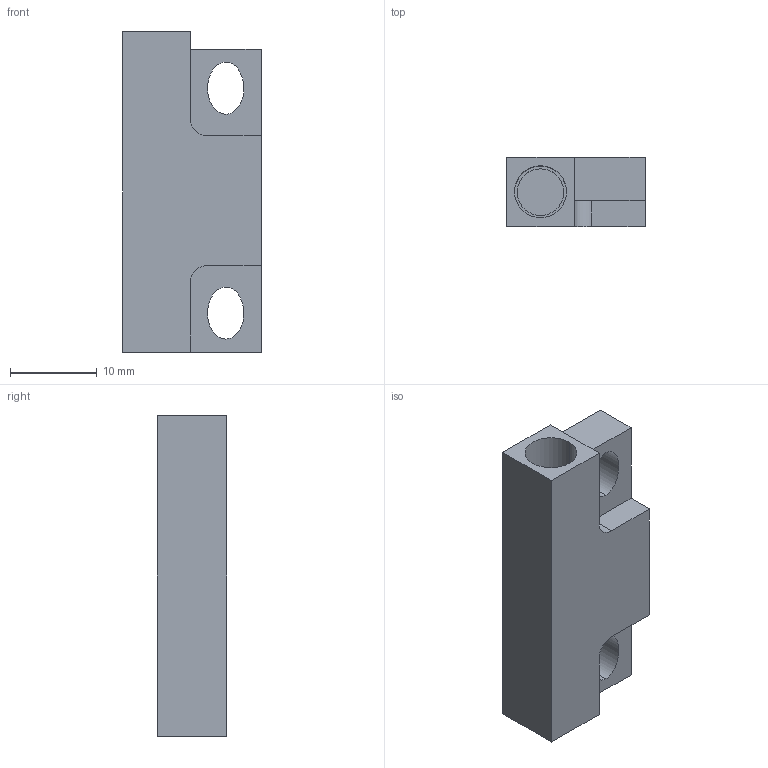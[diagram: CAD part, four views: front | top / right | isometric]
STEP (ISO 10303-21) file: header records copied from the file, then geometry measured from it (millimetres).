
FILE_DESCRIPTION (( 'STEP AP214' ), '1' );
FILE_NAME ('M306.STEP', '2021-12-30T09:24:48', ( '' ), ( '' ), 'SwSTEP 2.0', 'SolidWorks 2021', '' );
FILE_SCHEMA (( 'AUTOMOTIVE_DESIGN' ));
Length unit declared in the file: millimetre
Products named in the file (2): M306; Corpo_0-8
Assembly tree (1 placements, depth 2):
  M306
    Corpo_0-8
Bounding box: 16 x 8 x 37 mm (x, y, z)
Volume: 2706.8 mm3; surface area: 2769.7 mm2
Topology: 1 solids, 1 shells, 31 faces, 81 edges, 54 vertices
Faces by surface type: plane 19, cylinder 8, bspline 4
Entity records: 1037 total; most frequent: CARTESIAN_POINT 222, ORIENTED_EDGE 162, DIRECTION 151, EDGE_CURVE 81, VECTOR 57, LINE 57, VERTEX_POINT 54, AXIS2_PLACEMENT_3D 47
